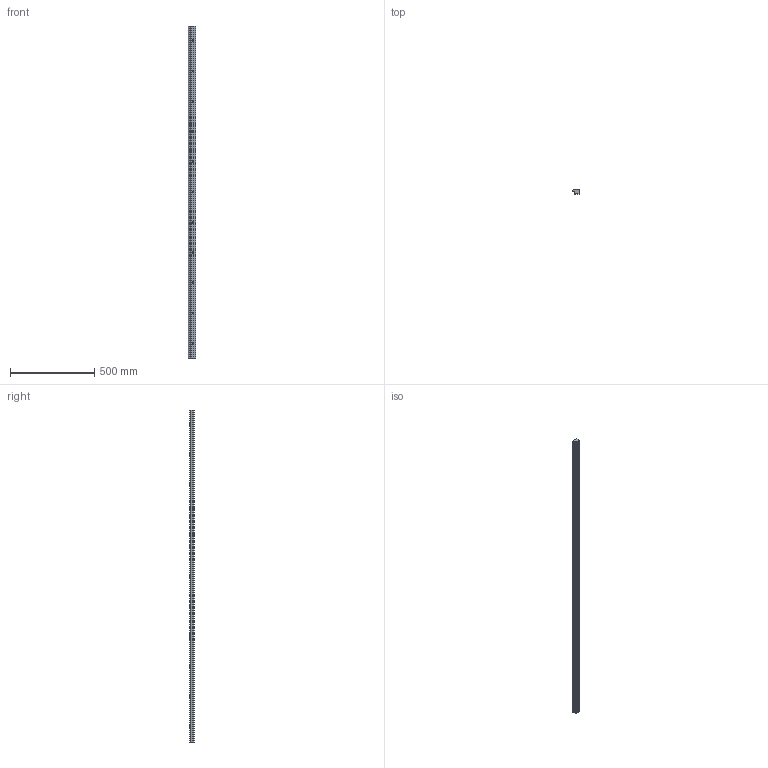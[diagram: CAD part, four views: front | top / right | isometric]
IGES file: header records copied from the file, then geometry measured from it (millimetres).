
Start section: 3D InterOp IGES (v. 2019 1.0.2), Spatial Corp. Copyright (c) 1999-2017.
Global section: file name: NLE L1976 P1.igs; native system: Spatial Corp.; preprocessor: 3D InterOp GENERIC/IGES 3.0; author: Noname; organization: Noname; date: 20220704.105724; units: millimetre
Bounding box: 42.8 x 24 x 1976 mm (x, y, z)
Surface area: 277544.2 mm2 (no closed solid volume)
Topology: 0 solids, 0 shells, 77 faces, 384 edges, 384 vertices
Faces by surface type: revolution 53, extrusion 24
